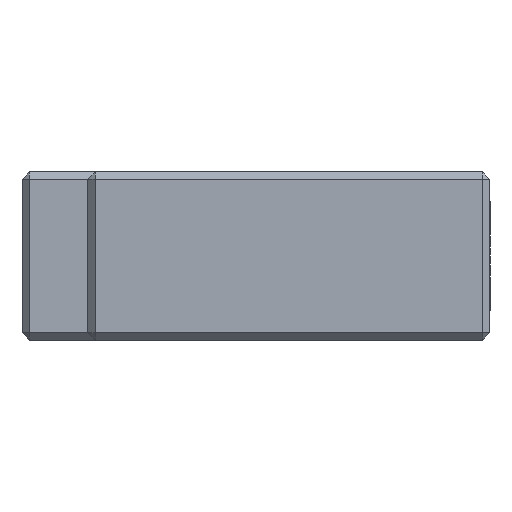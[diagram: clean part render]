
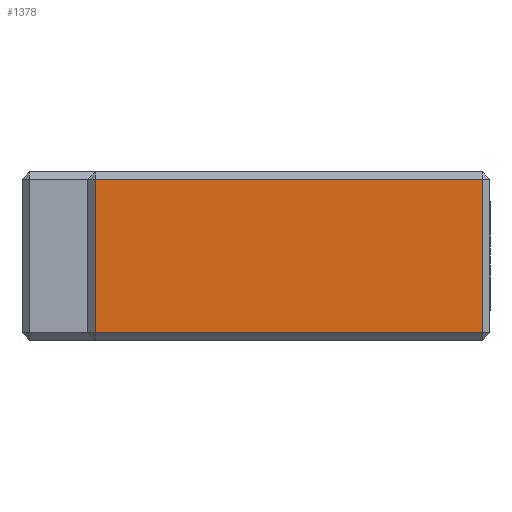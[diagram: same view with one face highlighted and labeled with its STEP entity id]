
A CAD part, left-side view. The second image highlights one B-rep face of the part: STEP entity #1378.
In plain terms, the highlighted planar face has unit normal (-1, 0, 0).
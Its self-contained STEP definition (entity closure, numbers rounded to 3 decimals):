
#113 = VERTEX_POINT ( 'NONE', #1664 ) ;
#194 = CARTESIAN_POINT ( 'NONE',  ( -43., 54., 10.5 ) ) ;
#359 = EDGE_CURVE ( 'NONE', #1447, #113, #832, .T. ) ;
#370 = VECTOR ( 'NONE', #4278, 1000. ) ;
#674 = DIRECTION ( 'NONE',  ( 0., -1., 0. ) ) ;
#677 = CARTESIAN_POINT ( 'NONE',  ( -43., 55., -10.5 ) ) ;
#832 = LINE ( 'NONE', #677, #1772 ) ;
#884 = CARTESIAN_POINT ( 'NONE',  ( -43., 55., 11.5 ) ) ;
#895 = VECTOR ( 'NONE', #4513, 1000. ) ;
#1337 = VERTEX_POINT ( 'NONE', #2490 ) ;
#1378 = ADVANCED_FACE ( 'NONE', ( #1783 ), #3975, .F. ) ;
#1447 = VERTEX_POINT ( 'NONE', #4435 ) ;
#1485 = LINE ( 'NONE', #4280, #370 ) ;
#1589 = ORIENTED_EDGE ( 'NONE', *, *, #4233, .T. ) ;
#1664 = CARTESIAN_POINT ( 'NONE',  ( -43., 1., -10.5 ) ) ;
#1680 = ORIENTED_EDGE ( 'NONE', *, *, #359, .T. ) ;
#1768 = ORIENTED_EDGE ( 'NONE', *, *, #4058, .T. ) ;
#1772 = VECTOR ( 'NONE', #674, 1000. ) ;
#1783 = FACE_OUTER_BOUND ( 'NONE', #1924, .T. ) ;
#1799 = ORIENTED_EDGE ( 'NONE', *, *, #3952, .T. ) ;
#1902 = LINE ( 'NONE', #3790, #3669 ) ;
#1924 = EDGE_LOOP ( 'NONE', ( #1680, #1768, #1799, #1589 ) ) ;
#2490 = CARTESIAN_POINT ( 'NONE',  ( -43., 1., 10.5 ) ) ;
#2805 = VERTEX_POINT ( 'NONE', #194 ) ;
#3534 = AXIS2_PLACEMENT_3D ( 'NONE', #884, #3961, #4473 ) ;
#3669 = VECTOR ( 'NONE', #3794, 1000. ) ;
#3715 = LINE ( 'NONE', #4494, #895 ) ;
#3790 = CARTESIAN_POINT ( 'NONE',  ( -43., 54., 11.5 ) ) ;
#3794 = DIRECTION ( 'NONE',  ( 0., 0., -1. ) ) ;
#3952 = EDGE_CURVE ( 'NONE', #1337, #2805, #3715, .T. ) ;
#3961 = DIRECTION ( 'NONE',  ( 1., 0., 0. ) ) ;
#3975 = PLANE ( 'NONE',  #3534 ) ;
#4058 = EDGE_CURVE ( 'NONE', #113, #1337, #1485, .T. ) ;
#4233 = EDGE_CURVE ( 'NONE', #2805, #1447, #1902, .T. ) ;
#4278 = DIRECTION ( 'NONE',  ( 0., 0., 1. ) ) ;
#4280 = CARTESIAN_POINT ( 'NONE',  ( -43., 1., 11.5 ) ) ;
#4435 = CARTESIAN_POINT ( 'NONE',  ( -43., 54., -10.5 ) ) ;
#4473 = DIRECTION ( 'NONE',  ( 0., 1., 0. ) ) ;
#4494 = CARTESIAN_POINT ( 'NONE',  ( -43., 55., 10.5 ) ) ;
#4513 = DIRECTION ( 'NONE',  ( 0., 1., 0. ) ) ;
